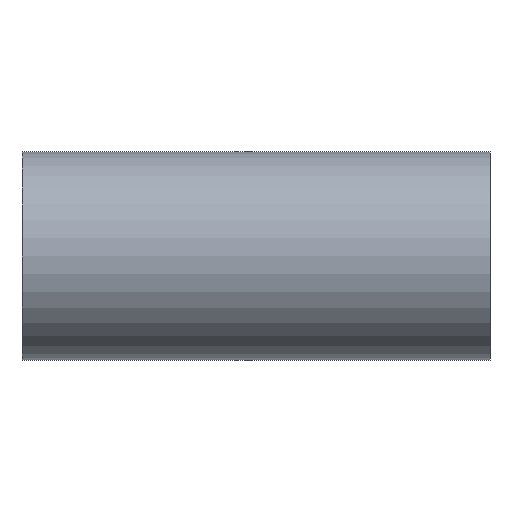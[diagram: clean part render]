
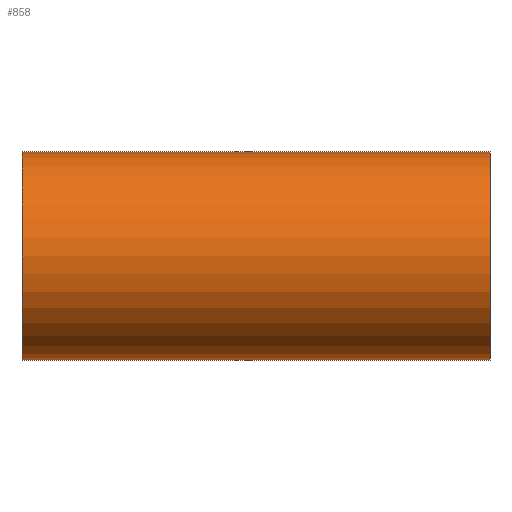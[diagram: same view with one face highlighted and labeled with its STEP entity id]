
A CAD part, front view. The second image highlights one B-rep face of the part: STEP entity #858.
In plain terms, the highlighted cylindrical face has radius 38.1 mm (diameter 76.2 mm), a partial arc.
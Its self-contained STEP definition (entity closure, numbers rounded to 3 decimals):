
#72 = VERTEX_POINT ( 'NONE', #1195 ) ;
#97 = CIRCLE ( 'NONE', #817, 38.1 ) ;
#134 = CARTESIAN_POINT ( 'NONE',  ( -85.7, 0., -38.1 ) ) ;
#291 = EDGE_CURVE ( 'NONE', #72, #330, #1775, .T. ) ;
#330 = VERTEX_POINT ( 'NONE', #1527 ) ;
#366 = LINE ( 'NONE', #1164, #1142 ) ;
#431 = VERTEX_POINT ( 'NONE', #1599 ) ;
#671 = LINE ( 'NONE', #1985, #697 ) ;
#695 = VERTEX_POINT ( 'NONE', #134 ) ;
#697 = VECTOR ( 'NONE', #1835, 1000. ) ;
#817 = AXIS2_PLACEMENT_3D ( 'NONE', #1266, #1274, #1301 ) ;
#857 = ORIENTED_EDGE ( 'NONE', *, *, #1654, .T. ) ;
#858 = ADVANCED_FACE ( 'NONE', ( #910 ), #868, .T. ) ;
#868 = CYLINDRICAL_SURFACE ( 'NONE', #1194, 38.1 ) ;
#910 = FACE_OUTER_BOUND ( 'NONE', #1161, .T. ) ;
#1012 = EDGE_CURVE ( 'NONE', #431, #330, #671, .T. ) ;
#1042 = AXIS2_PLACEMENT_3D ( 'NONE', #1494, #1510, #1516 ) ;
#1142 = VECTOR ( 'NONE', #1796, 1000. ) ;
#1157 = DIRECTION ( 'NONE',  ( 1., 0., 0. ) ) ;
#1161 = EDGE_LOOP ( 'NONE', ( #1375, #1457, #857, #1338 ) ) ;
#1164 = CARTESIAN_POINT ( 'NONE',  ( -85.7, 0., -38.1 ) ) ;
#1168 = CARTESIAN_POINT ( 'NONE',  ( -85.7, 0., 0. ) ) ;
#1190 = DIRECTION ( 'NONE',  ( 0., 0., -1. ) ) ;
#1194 = AXIS2_PLACEMENT_3D ( 'NONE', #1168, #1157, #1190 ) ;
#1195 = CARTESIAN_POINT ( 'NONE',  ( 85.7, 0., -38.1 ) ) ;
#1266 = CARTESIAN_POINT ( 'NONE',  ( -85.7, 0., 0. ) ) ;
#1274 = DIRECTION ( 'NONE',  ( 1., 0., 0. ) ) ;
#1301 = DIRECTION ( 'NONE',  ( 0., 0., -1. ) ) ;
#1338 = ORIENTED_EDGE ( 'NONE', *, *, #291, .T. ) ;
#1344 = EDGE_CURVE ( 'NONE', #431, #695, #97, .T. ) ;
#1375 = ORIENTED_EDGE ( 'NONE', *, *, #1012, .F. ) ;
#1457 = ORIENTED_EDGE ( 'NONE', *, *, #1344, .T. ) ;
#1494 = CARTESIAN_POINT ( 'NONE',  ( 85.7, 0., 0. ) ) ;
#1510 = DIRECTION ( 'NONE',  ( -1., 0., 0. ) ) ;
#1516 = DIRECTION ( 'NONE',  ( 0., 0., -1. ) ) ;
#1527 = CARTESIAN_POINT ( 'NONE',  ( 85.7, 0., 38.1 ) ) ;
#1599 = CARTESIAN_POINT ( 'NONE',  ( -85.7, 0., 38.1 ) ) ;
#1654 = EDGE_CURVE ( 'NONE', #695, #72, #366, .T. ) ;
#1775 = CIRCLE ( 'NONE', #1042, 38.1 ) ;
#1796 = DIRECTION ( 'NONE',  ( 1., 0., 0. ) ) ;
#1835 = DIRECTION ( 'NONE',  ( 1., 0., 0. ) ) ;
#1985 = CARTESIAN_POINT ( 'NONE',  ( -85.7, 0., 38.1 ) ) ;
